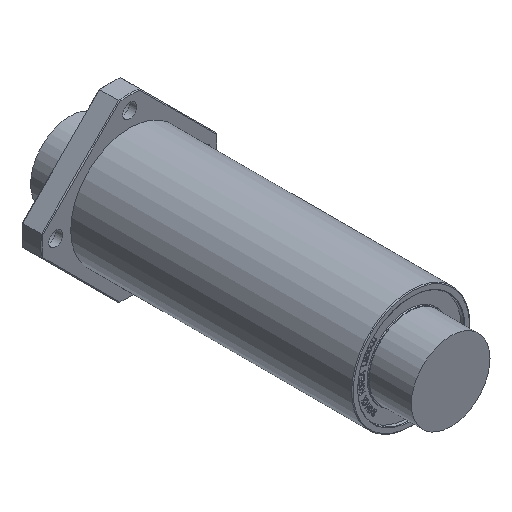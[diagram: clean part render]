
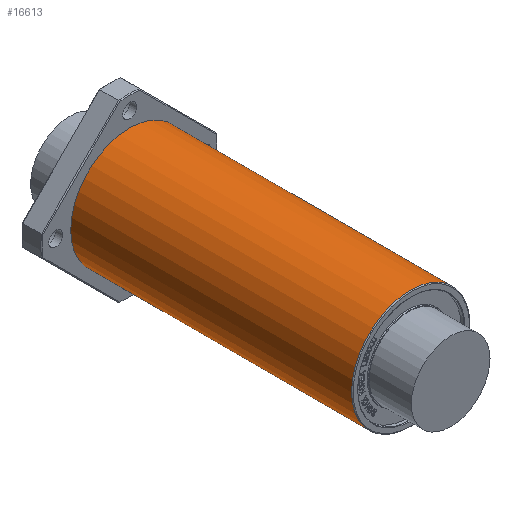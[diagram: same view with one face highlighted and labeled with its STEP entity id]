
A CAD part, isometric view. The second image highlights one B-rep face of the part: STEP entity #16613.
In plain terms, the highlighted cylindrical face has radius 37.5 mm (diameter 75 mm), a full revolution.
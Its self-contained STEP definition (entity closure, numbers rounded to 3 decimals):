
#2235=CYLINDRICAL_SURFACE('',#16975,37.5);
#2343=CIRCLE('',#16721,37.5);
#2344=CIRCLE('',#16722,37.5);
#2371=CIRCLE('',#16976,37.5);
#2372=CIRCLE('',#16977,37.5);
#2373=CIRCLE('',#16978,37.5);
#3259=FACE_OUTER_BOUND('',#4193,.T.);
#4193=EDGE_LOOP('',(#15461,#15462,#15463,#15464,#15465,#15466,#15467));
#5351=LINE('',#29955,#6503);
#6503=VECTOR('',#18819,37.5);
#6581=VERTEX_POINT('',#19076);
#6582=VERTEX_POINT('',#19077);
#8148=VERTEX_POINT('',#29950);
#8149=VERTEX_POINT('',#29951);
#8150=VERTEX_POINT('',#29953);
#8249=EDGE_CURVE('',#6581,#6582,#2343,.T.);
#8250=EDGE_CURVE('',#6582,#6581,#2344,.T.);
#10593=EDGE_CURVE('',#8148,#8149,#2371,.T.);
#10594=EDGE_CURVE('',#8150,#8148,#2372,.T.);
#10595=EDGE_CURVE('',#8150,#6582,#5351,.T.);
#10596=EDGE_CURVE('',#8149,#8150,#2373,.T.);
#15461=ORIENTED_EDGE('',*,*,#10593,.F.);
#15462=ORIENTED_EDGE('',*,*,#10594,.F.);
#15463=ORIENTED_EDGE('',*,*,#10595,.T.);
#15464=ORIENTED_EDGE('',*,*,#8250,.T.);
#15465=ORIENTED_EDGE('',*,*,#8249,.T.);
#15466=ORIENTED_EDGE('',*,*,#10595,.F.);
#15467=ORIENTED_EDGE('',*,*,#10596,.F.);
#16613=ADVANCED_FACE('',(#3259),#2235,.T.);
#16721=AXIS2_PLACEMENT_3D('',#19078,#17189,#17190);
#16722=AXIS2_PLACEMENT_3D('',#19079,#17191,#17192);
#16975=AXIS2_PLACEMENT_3D('',#29949,#18813,#18814);
#16976=AXIS2_PLACEMENT_3D('',#29952,#18815,#18816);
#16977=AXIS2_PLACEMENT_3D('',#29954,#18817,#18818);
#16978=AXIS2_PLACEMENT_3D('',#29956,#18820,#18821);
#17189=DIRECTION('center_axis',(0.,-1.,0.));
#17190=DIRECTION('ref_axis',(1.,0.,0.));
#17191=DIRECTION('center_axis',(0.,-1.,0.));
#17192=DIRECTION('ref_axis',(1.,0.,0.));
#18813=DIRECTION('center_axis',(0.,-1.,0.));
#18814=DIRECTION('ref_axis',(1.,0.,0.));
#18815=DIRECTION('center_axis',(0.,-1.,0.));
#18816=DIRECTION('ref_axis',(1.,0.,0.));
#18817=DIRECTION('center_axis',(0.,-1.,0.));
#18818=DIRECTION('ref_axis',(1.,0.,0.));
#18819=DIRECTION('',(0.,1.,0.));
#18820=DIRECTION('center_axis',(0.,-1.,0.));
#18821=DIRECTION('ref_axis',(1.,0.,0.));
#19076=CARTESIAN_POINT('',(37.5,83.,0.));
#19077=CARTESIAN_POINT('',(-37.5,83.,0.));
#19078=CARTESIAN_POINT('Origin',(0.,83.,0.));
#19079=CARTESIAN_POINT('Origin',(0.,83.,0.));
#29949=CARTESIAN_POINT('Origin',(0.,0.,0.));
#29950=CARTESIAN_POINT('',(37.5,-95.5,0.));
#29951=CARTESIAN_POINT('',(0.,-95.5,37.5));
#29952=CARTESIAN_POINT('Origin',(0.,-95.5,0.));
#29953=CARTESIAN_POINT('',(-37.5,-95.5,0.));
#29954=CARTESIAN_POINT('Origin',(0.,-95.5,0.));
#29955=CARTESIAN_POINT('',(-37.5,0.,0.));
#29956=CARTESIAN_POINT('Origin',(0.,-95.5,0.));
